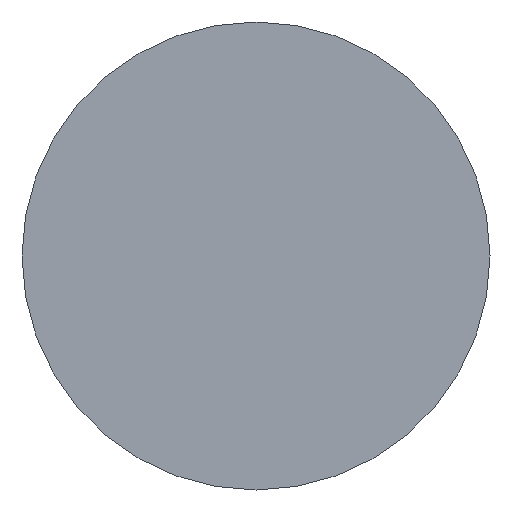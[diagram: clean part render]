
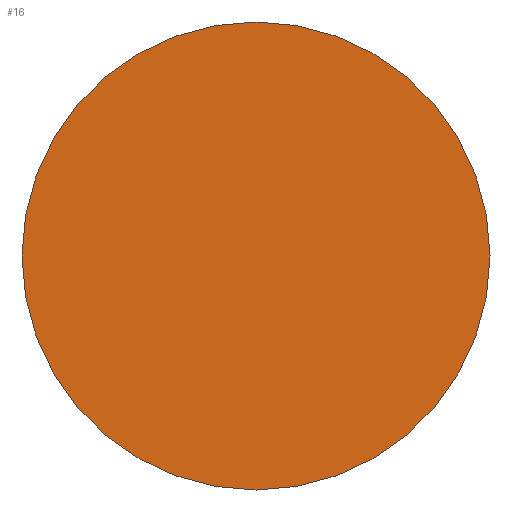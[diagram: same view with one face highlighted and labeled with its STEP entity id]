
A CAD part, left-side view. The second image highlights one B-rep face of the part: STEP entity #16.
In plain terms, the highlighted planar face has unit normal (-1, 0, 0).
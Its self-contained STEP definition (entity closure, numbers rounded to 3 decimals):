
#1 = DIRECTION ( 'NONE',  ( -1., 0., 0. ) ) ;
#5 = ORIENTED_EDGE ( 'NONE', *, *, #182, .F. ) ;
#16 = ADVANCED_FACE ( 'NONE', ( #94 ), #149, .T. ) ;
#29 = DIRECTION ( 'NONE',  ( 0., 1., 0. ) ) ;
#64 = EDGE_CURVE ( 'NONE', #137, #112, #123, .T. ) ;
#67 = AXIS2_PLACEMENT_3D ( 'NONE', #239, #173, #29 ) ;
#69 = DIRECTION ( 'NONE',  ( 0., 1., 0. ) ) ;
#91 = CIRCLE ( 'NONE', #67, 8. ) ;
#94 = FACE_OUTER_BOUND ( 'NONE', #247, .T. ) ;
#112 = VERTEX_POINT ( 'NONE', #130 ) ;
#123 = CIRCLE ( 'NONE', #270, 8. ) ;
#130 = CARTESIAN_POINT ( 'NONE',  ( 0., -8., 0. ) ) ;
#134 = DIRECTION ( 'NONE',  ( 0., -1., 0. ) ) ;
#137 = VERTEX_POINT ( 'NONE', #145 ) ;
#145 = CARTESIAN_POINT ( 'NONE',  ( 0., 8., 0. ) ) ;
#149 = PLANE ( 'NONE',  #228 ) ;
#150 = ORIENTED_EDGE ( 'NONE', *, *, #64, .F. ) ;
#169 = CARTESIAN_POINT ( 'NONE',  ( 0., 0., 0. ) ) ;
#173 = DIRECTION ( 'NONE',  ( 1., 0., 0. ) ) ;
#182 = EDGE_CURVE ( 'NONE', #112, #137, #91, .T. ) ;
#194 = DIRECTION ( 'NONE',  ( 1., 0., 0. ) ) ;
#228 = AXIS2_PLACEMENT_3D ( 'NONE', #263, #1, #134 ) ;
#239 = CARTESIAN_POINT ( 'NONE',  ( 0., 0., 0. ) ) ;
#247 = EDGE_LOOP ( 'NONE', ( #150, #5 ) ) ;
#263 = CARTESIAN_POINT ( 'NONE',  ( 0., 0., 0. ) ) ;
#270 = AXIS2_PLACEMENT_3D ( 'NONE', #169, #194, #69 ) ;
